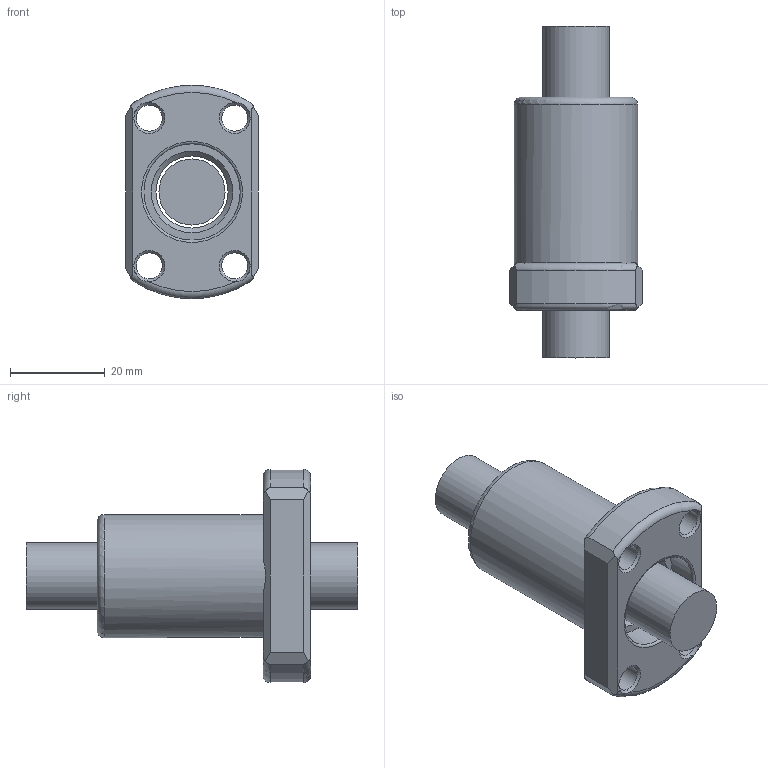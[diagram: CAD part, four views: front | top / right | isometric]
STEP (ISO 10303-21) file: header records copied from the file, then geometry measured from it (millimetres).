
FILE_DESCRIPTION(/* description */ (''),/* implementation_level */ '2;1');
FILE_NAME(/* name */ '1405T4D.prt.step',/* time_stamp */ '2008-12-05T09:32:49+08:00',/* author */ (''),/* organization */ (''),/* preprocessor_version */ 'ST-DEVELOPER v11',/* originating_system */ 'SIEMENS UGS NX 6.0',/* authorisation */ '');
FILE_SCHEMA (('AUTOMOTIVE_DESIGN { 1 0 10303 214 1 1 1 1 }'));
Length unit declared in the file: millimetre
Products named in the file (1): 1405T4D
Bounding box: 28 x 70 x 44.97 mm (x, y, z)
Volume: 29684.7 mm3; surface area: 11993.2 mm2
Topology: 2 solids, 2 shells, 54 faces, 142 edges, 86 vertices
Faces by surface type: plane 18, cylinder 11, cone 10, bspline 8, torus 7
Full cylindrical faces by diameter (mm): 5.5 x4, 13.95 x1, 15.2 x1, 20.3 x2, 26 x1
Entity records: 1812 total; most frequent: CARTESIAN_POINT 601, ORIENTED_EDGE 248, DIRECTION 220, EDGE_CURVE 124, AXIS2_PLACEMENT_3D 97, VERTEX_POINT 82, EDGE_LOOP 72, ADVANCED_FACE 54
